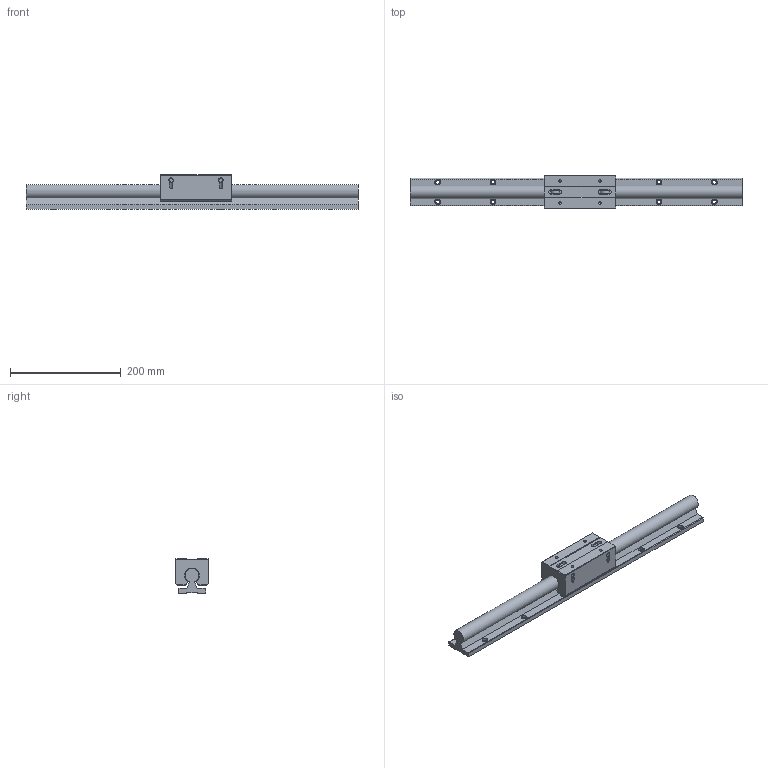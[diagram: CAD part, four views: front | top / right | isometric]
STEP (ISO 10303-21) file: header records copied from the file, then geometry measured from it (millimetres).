
FILE_DESCRIPTION((''),'2;1');
FILE_NAME('D:\製品 (図面)\カタログ用3D\リニアガイド関連\STEP形式\SLGW\SLGW25.stp','2010-06-02T16:57:52',('Tsuchiya'),(''),'Autodesk Inventor 10','Autodesk Inventor 10','');
FILE_SCHEMA(('AUTOMOTIVE_DESIGN { 1 0 10303 214 1 1 1 1 }'));
Length unit declared in the file: millimetre
Products named in the file (3): SLGW25; SLGW251; SLGW252
Assembly tree (2 placements, depth 2):
  SLGW25
    SLGW251
    SLGW252
Bounding box: 600 x 60 x 62 mm (x, y, z)
Volume: 916725.6 mm3; surface area: 167576 mm2
Topology: 2 solids, 2 shells, 237 faces, 549 edges, 356 vertices
Faces by surface type: bspline 108, plane 76, cylinder 30, cone 20, torus 3
Full cylindrical faces by diameter (mm): 4.917 x2, 5 x3, 5.5 x3, 6.5 x3, 8 x4, 16 x3
Entity records: 7312 total; most frequent: CARTESIAN_POINT 2668, ORIENTED_EDGE 858, DIRECTION 831, EDGE_CURVE 429, EDGE_LOOP 403, VERTEX_POINT 330, AXIS2_PLACEMENT_3D 318, FACE_OUTER_BOUND 237
